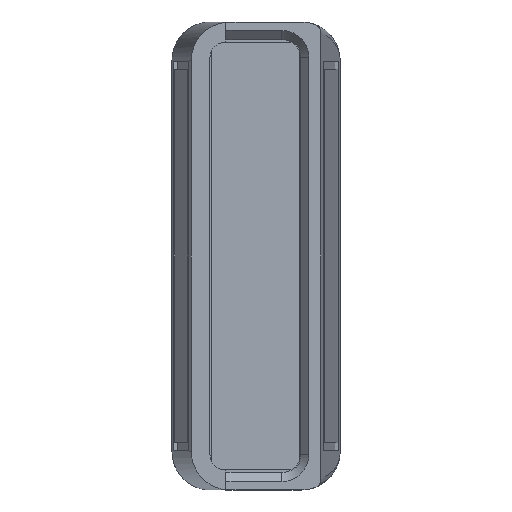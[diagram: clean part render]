
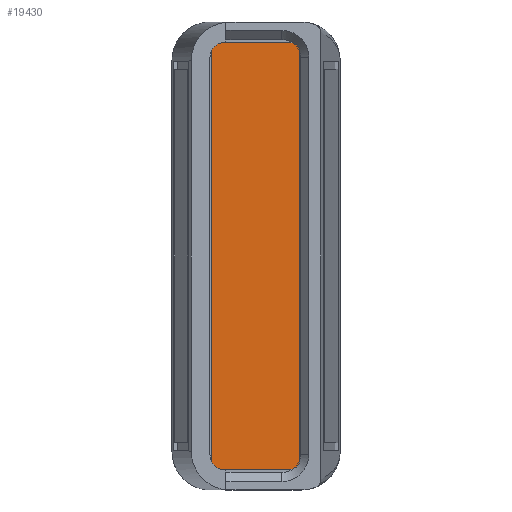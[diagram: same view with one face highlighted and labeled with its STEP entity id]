
A CAD part, left-side view. The second image highlights one B-rep face of the part: STEP entity #19430.
In plain terms, the highlighted planar face has unit normal (-1, 0, 0) as drawn and (0, 0, 1) by its records, which use the part's own axes.
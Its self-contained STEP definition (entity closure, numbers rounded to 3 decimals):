
#1012 = AXIS2_PLACEMENT_3D ( 'NONE', #11876, #2241, #13507 ) ;
#1042 = ORIENTED_EDGE ( 'NONE', *, *, #14502, .T. ) ;
#1373 = VECTOR ( 'NONE', #19479, 1000. ) ;
#1809 = FACE_OUTER_BOUND ( 'NONE', #19767, .T. ) ;
#1849 = VERTEX_POINT ( 'NONE', #18215 ) ;
#1908 = VERTEX_POINT ( 'NONE', #2715 ) ;
#2241 = DIRECTION ( 'NONE',  ( 0., 0., 1. ) ) ;
#2262 = CIRCLE ( 'NONE', #8179, 1.2 ) ;
#2431 = LINE ( 'NONE', #5353, #6680 ) ;
#2715 = CARTESIAN_POINT ( 'NONE',  ( 27.65, 4.25, 0. ) ) ;
#2768 = CARTESIAN_POINT ( 'NONE',  ( -27.65, 4.25, 0. ) ) ;
#2865 = ORIENTED_EDGE ( 'NONE', *, *, #17308, .T. ) ;
#2896 = CARTESIAN_POINT ( 'NONE',  ( 0., 0., 0. ) ) ;
#3593 = EDGE_CURVE ( 'NONE', #1908, #1849, #5330, .T. ) ;
#4116 = DIRECTION ( 'NONE',  ( 0., 0., 1. ) ) ;
#4354 = ORIENTED_EDGE ( 'NONE', *, *, #17755, .T. ) ;
#4447 = DIRECTION ( 'NONE',  ( 0., 0., 1. ) ) ;
#4506 = DIRECTION ( 'NONE',  ( 0., 0., 1. ) ) ;
#4958 = VERTEX_POINT ( 'NONE', #2768 ) ;
#5330 = CIRCLE ( 'NONE', #11027, 1.5 ) ;
#5353 = CARTESIAN_POINT ( 'NONE',  ( -27.65, -5.75, 0. ) ) ;
#5465 = VERTEX_POINT ( 'NONE', #15227 ) ;
#5733 = VERTEX_POINT ( 'NONE', #15906 ) ;
#5863 = CARTESIAN_POINT ( 'NONE',  ( 27.65, -4.55, 0. ) ) ;
#5949 = ORIENTED_EDGE ( 'NONE', *, *, #7358, .T. ) ;
#6680 = VECTOR ( 'NONE', #14993, 1000. ) ;
#7199 = AXIS2_PLACEMENT_3D ( 'NONE', #2896, #4506, #15749 ) ;
#7223 = LINE ( 'NONE', #17730, #10999 ) ;
#7358 = EDGE_CURVE ( 'NONE', #5733, #4958, #13843, .T. ) ;
#7445 = CARTESIAN_POINT ( 'NONE',  ( 26.15, 4.25, 0. ) ) ;
#8075 = DIRECTION ( 'NONE',  ( 0., 1., 0. ) ) ;
#8179 = AXIS2_PLACEMENT_3D ( 'NONE', #13742, #4116, #15347 ) ;
#9088 = DIRECTION ( 'NONE',  ( 1., 0., 0. ) ) ;
#9446 = AXIS2_PLACEMENT_3D ( 'NONE', #14067, #4447, #15693 ) ;
#10999 = VECTOR ( 'NONE', #8075, 1000. ) ;
#11027 = AXIS2_PLACEMENT_3D ( 'NONE', #7445, #18719, #9088 ) ;
#11651 = VECTOR ( 'NONE', #18115, 1000. ) ;
#11759 = EDGE_CURVE ( 'NONE', #19929, #15194, #16629, .T. ) ;
#11876 = CARTESIAN_POINT ( 'NONE',  ( 26.45, -4.55, 0. ) ) ;
#12230 = EDGE_CURVE ( 'NONE', #17252, #5465, #2262, .T. ) ;
#12507 = PLANE ( 'NONE',  #7199 ) ;
#12768 = ORIENTED_EDGE ( 'NONE', *, *, #17171, .T. ) ;
#12902 = ORIENTED_EDGE ( 'NONE', *, *, #11759, .T. ) ;
#13234 = CARTESIAN_POINT ( 'NONE',  ( -27.65, -4.55, 0. ) ) ;
#13416 = ORIENTED_EDGE ( 'NONE', *, *, #12230, .T. ) ;
#13507 = DIRECTION ( 'NONE',  ( 1., 0., 0. ) ) ;
#13742 = CARTESIAN_POINT ( 'NONE',  ( -26.45, -4.55, 0. ) ) ;
#13843 = CIRCLE ( 'NONE', #9446, 1.5 ) ;
#14067 = CARTESIAN_POINT ( 'NONE',  ( -26.15, 4.25, 0. ) ) ;
#14502 = EDGE_CURVE ( 'NONE', #4958, #17252, #15910, .T. ) ;
#14993 = DIRECTION ( 'NONE',  ( 1., 0., 0. ) ) ;
#15194 = VERTEX_POINT ( 'NONE', #5863 ) ;
#15227 = CARTESIAN_POINT ( 'NONE',  ( -26.45, -5.75, 0. ) ) ;
#15347 = DIRECTION ( 'NONE',  ( 1., 0., 0. ) ) ;
#15693 = DIRECTION ( 'NONE',  ( 1., 0., 0. ) ) ;
#15749 = DIRECTION ( 'NONE',  ( 1., 0., 0. ) ) ;
#15906 = CARTESIAN_POINT ( 'NONE',  ( -26.15, 5.75, 0. ) ) ;
#15910 = LINE ( 'NONE', #16431, #11651 ) ;
#16232 = CARTESIAN_POINT ( 'NONE',  ( -27.65, 5.75, 0. ) ) ;
#16431 = CARTESIAN_POINT ( 'NONE',  ( -27.65, 5.75, 0. ) ) ;
#16629 = CIRCLE ( 'NONE', #1012, 1.2 ) ;
#17171 = EDGE_CURVE ( 'NONE', #15194, #1908, #7223, .T. ) ;
#17252 = VERTEX_POINT ( 'NONE', #13234 ) ;
#17308 = EDGE_CURVE ( 'NONE', #5465, #19929, #2431, .T. ) ;
#17730 = CARTESIAN_POINT ( 'NONE',  ( 27.65, 5.75, 0. ) ) ;
#17755 = EDGE_CURVE ( 'NONE', #1849, #5733, #18013, .T. ) ;
#18013 = LINE ( 'NONE', #16232, #1373 ) ;
#18115 = DIRECTION ( 'NONE',  ( 0., -1., 0. ) ) ;
#18215 = CARTESIAN_POINT ( 'NONE',  ( 26.15, 5.75, 0. ) ) ;
#18429 = ORIENTED_EDGE ( 'NONE', *, *, #3593, .T. ) ;
#18719 = DIRECTION ( 'NONE',  ( 0., 0., 1. ) ) ;
#19430 = ADVANCED_FACE ( 'NONE', ( #1809 ), #12507, .T. ) ;
#19479 = DIRECTION ( 'NONE',  ( -1., 0., 0. ) ) ;
#19767 = EDGE_LOOP ( 'NONE', ( #2865, #12902, #12768, #18429, #4354, #5949, #1042, #13416 ) ) ;
#19929 = VERTEX_POINT ( 'NONE', #20162 ) ;
#20162 = CARTESIAN_POINT ( 'NONE',  ( 26.45, -5.75, 0. ) ) ;
